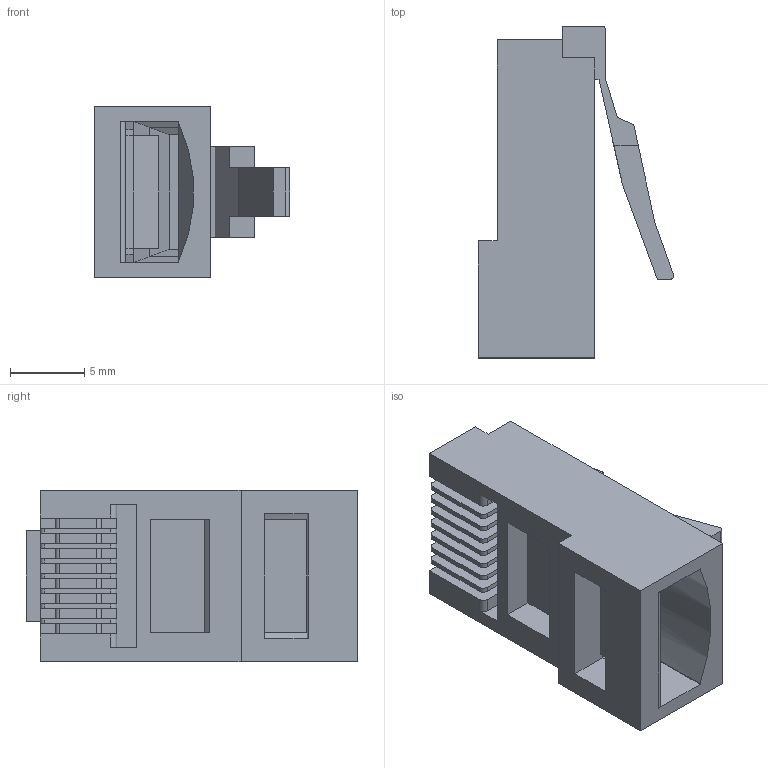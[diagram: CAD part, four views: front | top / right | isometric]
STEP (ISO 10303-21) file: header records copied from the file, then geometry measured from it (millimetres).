
FILE_DESCRIPTION((''),'2;1');
FILE_NAME('CU_ENET_CABLE_BACKSHELL','2007-06-21T',('jpearson'),(''),'PRO/ENGINEER BY PARAMETRIC TECHNOLOGY CORPORATION, 2006080','PRO/ENGINEER BY PARAMETRIC TECHNOLOGY CORPORATION, 2006080','');
FILE_SCHEMA(('CONFIG_CONTROL_DESIGN'));
Length unit declared in the file: inch
Products named in the file (1): CU_ENET_CABLE_BACKSHELL
Bounding box: 13.15 x 22.35 x 11.56 mm (x, y, z)
Volume: 1287.3 mm3; surface area: 1706.5 mm2
Topology: 1 solids, 1 shells, 168 faces, 491 edges, 324 vertices
Faces by surface type: plane 132, cylinder 36
Entity records: 5556 total; most frequent: CARTESIAN_POINT 987, ORIENTED_EDGE 982, DIRECTION 897, EDGE_CURVE 491, VECTOR 419, LINE 419, VERTEX_POINT 324, AXIS2_PLACEMENT_3D 239
